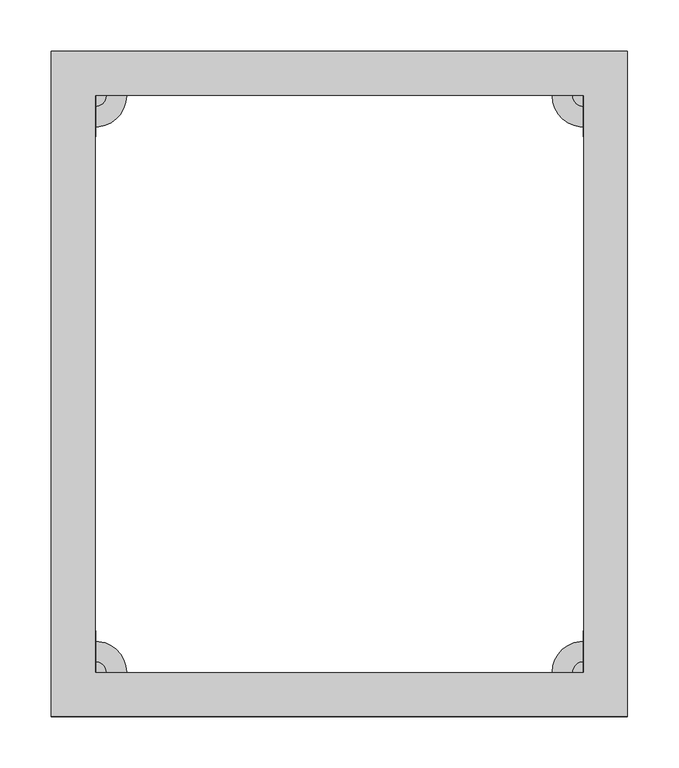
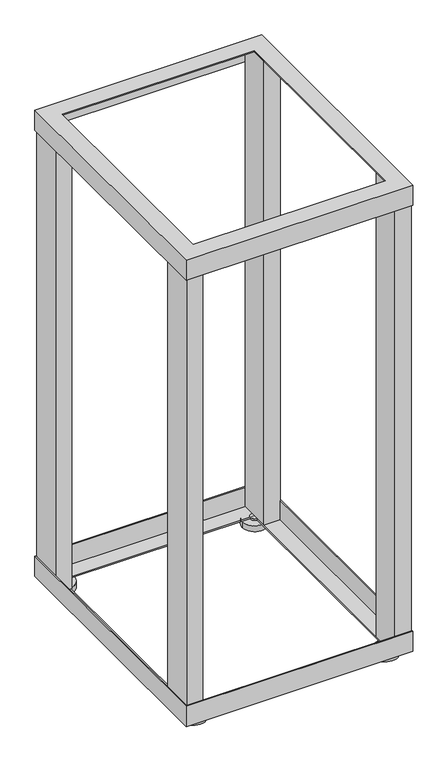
"""IFC4 building model written with IfcOpenShell, lengths in millimetres: proxy geometry, Шкафы ITK серия F : LF05-24U68-2R."""

import ifcopenshell
import ifcopenshell.guid

model = None  # the IFC model being written
_history = None  # IfcOwnerHistory: only IFC2X3 demands one
_inside = {}  # id of a spatial element -> (the spatial element, [elements in it])
_under = {}  # id of a project, library or spatial element -> (it, [spatial elements below it])
_declared = {}  # id of a project -> (the project, [libraries it declares])
_typed = {}  # id of a type object -> (the type object, [elements of that type])
_made_of = {}  # id of a material, layer set ... -> (it, [elements and type objects made of it])


def new_model(schema):
    """Start an empty IFC model of exactly this schema.

    Asked for "IFC4X3", IfcOpenShell would pick the latest addendum, in which some entities
    have other attributes; the version numbers below select the first issue.
    IFC2X3 requires an IfcOwnerHistory on every rooted entity: one is made here for all.
    """
    global model, _history
    if schema == "IFC4X3":
        model = ifcopenshell.file(schema_version=(4, 3, 0, 0))
    else:
        model = ifcopenshell.file(schema=schema)
    _inside.clear()
    _under.clear()
    _declared.clear()
    _typed.clear()
    _made_of.clear()
    _history = None
    if model.schema == "IFC2X3":
        org = make("IfcOrganization", Name="unknown")
        user = make(
            "IfcPersonAndOrganization",
            ThePerson=make("IfcPerson", FamilyName="unknown"),
            TheOrganization=org,
        )
        app = make(
            "IfcApplication",
            ApplicationDeveloper=org,
            Version="unknown",
            ApplicationFullName="unknown",
            ApplicationIdentifier="unknown",
        )
        _history = make(
            "IfcOwnerHistory",
            OwningUser=user,
            OwningApplication=app,
            ChangeAction="ADDED",
            CreationDate=0,
        )
    return model


def make(cls, **values):
    """One entity of the class cls with the attributes given. An attribute that is None is left unset."""
    return model.create_entity(
        cls, **{name: value for name, value in values.items() if value is not None}
    )


def rooted(cls, **values):
    """An entity with a GlobalId (a new one), such as an element, a storey or a relation."""
    return make(cls, GlobalId=ifcopenshell.guid.new(), OwnerHistory=_history, **values)


def si_unit(unit_type, name, prefix=None):
    """IfcSIUnit, for example si_unit("LENGTHUNIT", "METRE", prefix="MILLI")."""
    return make("IfcSIUnit", UnitType=unit_type, Prefix=prefix, Name=name)


def assignment(units):
    """IfcUnitAssignment: the units of a project."""
    return None if units is None else make("IfcUnitAssignment", Units=units)


def point(xyz):
    """IfcCartesianPoint."""
    return None if xyz is None else make("IfcCartesianPoint", Coordinates=xyz)


def direction(xyz):
    """IfcDirection."""
    return None if xyz is None else make("IfcDirection", DirectionRatios=xyz)


def frame(location, z_axis=None, x_axis=None):
    """IfcAxis2Placement3D, a coordinate frame: its origin and axes. An axis left out is left unset."""
    return make(
        "IfcAxis2Placement3D",
        Location=point(location),
        Axis=direction(z_axis),
        RefDirection=direction(x_axis),
    )


def frame_2d(location, x_axis=None):
    """IfcAxis2Placement2D, a coordinate frame in the plane: its origin and x axis."""
    return make(
        "IfcAxis2Placement2D", Location=point(location), RefDirection=direction(x_axis)
    )


def origin():
    """The frame at (0, 0, 0) with its axes left unset."""
    return frame((0.0, 0.0, 0.0))


def origin_with_axes():
    """The frame at (0, 0, 0) with the z axis (0, 0, 1) and the x axis (1, 0, 0) written out."""
    return frame((0.0, 0.0, 0.0), z_axis=(0.0, 0.0, 1.0), x_axis=(1.0, 0.0, 0.0))


def place(relative_to, where):
    """IfcLocalPlacement: puts the frame where relative to a parent placement (None: the world)."""
    return make(
        "IfcLocalPlacement", PlacementRelTo=relative_to, RelativePlacement=where
    )


def context(
    kind, dimensions, precision=None, world=None, true_north=None, identifier=None
):
    """IfcGeometricRepresentationContext, for example the 3D "Model" context."""
    return make(
        "IfcGeometricRepresentationContext",
        ContextIdentifier=identifier,
        ContextType=kind,
        CoordinateSpaceDimension=dimensions,
        Precision=precision,
        WorldCoordinateSystem=world,
        TrueNorth=true_north,
    )


def project(units=None, contexts=None):
    """IfcProject with its units and contexts."""
    return rooted(
        "IfcProject",
        Name="project",
        RepresentationContexts=contexts,
        UnitsInContext=assignment(units),
    )


def spatial(cls, under=None, at=None, **own):
    """A site, building, storey or space (cls), placed at a placement, below another one or the project."""
    s = rooted(cls, ObjectPlacement=at, **own)
    if under is not None:
        _under.setdefault(under.id(), (under, []))[1].append(s)
    return s


def polyline(points):
    """IfcPolyline through the points."""
    return make("IfcPolyline", Points=[point(p) for p in points])


def circle_curve(where, radius):
    """IfcCircle in the frame where."""
    return make("IfcCircle", Position=where, Radius=radius)


def trimmed(basis, trim1, trim2, sense, master):
    """IfcTrimmedCurve: the piece of a basis curve between two trims."""
    return make(
        "IfcTrimmedCurve",
        BasisCurve=basis,
        Trim1=trim1,
        Trim2=trim2,
        SenseAgreement=sense,
        MasterRepresentation=master,
    )


def segment(curve, same_sense, transition):
    """IfcCompositeCurveSegment."""
    return make(
        "IfcCompositeCurveSegment",
        Transition=transition,
        SameSense=same_sense,
        ParentCurve=curve,
    )


def composite_curve(segments, self_intersect=None):
    """IfcCompositeCurve: segments joined end to end."""
    return make("IfcCompositeCurve", Segments=segments, SelfIntersect=self_intersect)


def outline(outer, holes=None, kind="AREA"):
    """IfcArbitraryClosedProfileDef: a profile drawn as a closed curve; with holes, ...WithVoids."""
    if holes is None:
        return make("IfcArbitraryClosedProfileDef", ProfileType=kind, OuterCurve=outer)
    return make(
        "IfcArbitraryProfileDefWithVoids",
        ProfileType=kind,
        OuterCurve=outer,
        InnerCurves=holes,
    )


def extrude(swept, where, along, depth):
    """IfcExtrudedAreaSolid: the profile swept, set in the frame where, extruded along a direction by depth."""
    return make(
        "IfcExtrudedAreaSolid",
        SweptArea=swept,
        Position=where,
        ExtrudedDirection=direction(along),
        Depth=depth,
    )


def faces_of(points, faces, orient=None, outer=None):
    """IfcFace entities. A face is a list of loops; a loop is a list of indices into points, from 0.

    orient and outer hold one flag for each loop. By default every Orientation is true, the
    first loop of a face is its IfcFaceOuterBound and the others are IfcFaceBound.
    """
    made = []
    for i, loops in enumerate(faces):
        bounds = []
        for j, loop in enumerate(loops):
            is_outer = j == 0 if outer is None else outer[i][j]
            bounds.append(
                make(
                    "IfcFaceOuterBound" if is_outer else "IfcFaceBound",
                    Bound=make("IfcPolyLoop", Polygon=[points[k] for k in loop]),
                    Orientation=True if orient is None else orient[i][j],
                )
            )
        made.append(make("IfcFace", Bounds=bounds))
    return made


def faceted_brep(points, faces, orient=None, outer=None, voids=None):
    """IfcFacetedBrep: a solid bounded by flat faces; with voids (closed shells), ...WithVoids."""
    shared = [point(p) for p in points]
    hull = make("IfcClosedShell", CfsFaces=faces_of(shared, faces, orient, outer))
    if voids is None:
        return make("IfcFacetedBrep", Outer=hull)
    return make(
        "IfcFacetedBrepWithVoids",
        Outer=hull,
        Voids=[
            make(cls, CfsFaces=faces_of(shared, fs, o, b)) for cls, fs, o, b in voids
        ],
    )


def shape(context_of_items, identifier, shape_type, items):
    """IfcShapeRepresentation: the items that make up one representation, for example the "Body"."""
    return make(
        "IfcShapeRepresentation",
        ContextOfItems=context_of_items,
        RepresentationIdentifier=identifier,
        RepresentationType=shape_type,
        Items=items,
    )


def source(mapping_origin, context_of_items, identifier, shape_type, items):
    """IfcRepresentationMap: a shape defined once, which mapped items show again and again."""
    return make(
        "IfcRepresentationMap",
        MappingOrigin=mapping_origin,
        MappedRepresentation=shape(context_of_items, identifier, shape_type, items),
    )


def transform(
    local_origin,
    x_axis=None,
    y_axis=None,
    z_axis=None,
    scale=None,
    scale2=None,
    scale3=None,
    uniform=True,
):
    """IfcCartesianTransformationOperator3D, or its non-uniform kind. x_axis, y_axis, z_axis: its Axis1, 2, 3."""
    if uniform:
        return make(
            "IfcCartesianTransformationOperator3D",
            Axis1=direction(x_axis),
            Axis2=direction(y_axis),
            LocalOrigin=point(local_origin),
            Scale=scale,
            Axis3=direction(z_axis),
        )
    return make(
        "IfcCartesianTransformationOperator3DnonUniform",
        Axis1=direction(x_axis),
        Axis2=direction(y_axis),
        LocalOrigin=point(local_origin),
        Scale=scale,
        Axis3=direction(z_axis),
        Scale2=scale2,
        Scale3=scale3,
    )


def mapped(mapping_source, mapping_target):
    """IfcMappedItem: shows the shape of a source again, moved by a transform."""
    return make(
        "IfcMappedItem", MappingSource=mapping_source, MappingTarget=mapping_target
    )


def made_of(thing, what):
    """Note that an element or type object is made of a material, layer set ...; save() writes the relation."""
    if what is not None:
        _made_of.setdefault(what.id(), (what, []))[1].append(thing)
    return thing


def element(
    cls,
    number,
    at=None,
    inside=None,
    cuts=None,
    type_object=None,
    material=None,
    context=None,
    identifier="Body",
    shape_type=None,
    held_by="IfcProductDefinitionShape",
    body=None,
    shapes=None,
    **own,
):
    """One element of the class cls, such as IfcWall. Its Tag is "e" and its number.

    at: its placement. inside: the storey or other place that contains it. cuts: it is an
    opening in that element (IfcRelVoidsElement). A single representation is given by context,
    identifier, shape_type and body (its items); several are given by shapes. held_by: the class
    of the entity that holds the representations. save() writes the other relations.
    """
    e = rooted(cls, Tag="e%d" % number, ObjectPlacement=at, **own)
    if body is not None:
        shapes = [shape(context, identifier, shape_type, body)]
    if shapes is not None:
        e.Representation = make(held_by, Representations=shapes)
    if inside is not None:
        _inside.setdefault(inside.id(), (inside, []))[1].append(e)
    if cuts is not None:
        rooted(
            "IfcRelVoidsElement", RelatingBuildingElement=cuts, RelatedOpeningElement=e
        )
    if type_object is not None:
        _typed.setdefault(type_object.id(), (type_object, []))[1].append(e)
    return made_of(e, material)


def aggregate(whole, parts):
    """IfcRelAggregates: a whole, such as a stair, and the parts it consists of."""
    return rooted("IfcRelAggregates", RelatingObject=whole, RelatedObjects=parts)


def save(model, path):
    """Write the relations noted so far, then the file.

    IfcRelAggregates (storeys below a building ...), IfcRelContainedInSpatialStructure (elements
    in a storey), IfcRelDefinesByType, IfcRelAssociatesMaterial and IfcRelDeclares: one each for
    every whole, place, type object, material and project.
    """
    for whole, parts in _under.values():
        aggregate(whole, parts)
    for where, things in _inside.values():
        rooted(
            "IfcRelContainedInSpatialStructure",
            RelatedElements=things,
            RelatingStructure=where,
        )
    for kind, things in _typed.values():
        rooted("IfcRelDefinesByType", RelatedObjects=things, RelatingType=kind)
    for what, things in _made_of.values():
        rooted("IfcRelAssociatesMaterial", RelatedObjects=things, RelatingMaterial=what)
    for by, libraries in _declared.values():
        rooted("IfcRelDeclares", RelatingContext=by, RelatedDefinitions=libraries)
    model.write(path)


def electrical_fixtures_196bb8f5(model_context):
    return source(origin(), model_context, "Body", "SolidModel", [
        extrude(outline(composite_curve([segment(trimmed(circle_curve(frame_2d((-237.0, 280.0)), 10.0), [point((-227.0, 280.0))], [point((-247.0, 280.0))], False, "CARTESIAN"), True, "CONTINUOUS"), segment(trimmed(circle_curve(frame_2d((-237.0, 280.0)), 10.0), [point((-247.0, 280.0))], [point((-227.0, 280.0))], False, "CARTESIAN"), True, "CONTINUOUS")], self_intersect=False)), frame((0.0, 0.0, 15.0), z_axis=(0.0, 0.0, 1.0), x_axis=(1.0, 0.0, 0.0)), (0.0, 0.0, 1.0), 5.0),
        extrude(outline(composite_curve([segment(trimmed(circle_curve(frame_2d((237.0, 280.0)), 10.0), [point((247.0, 280.0))], [point((227.0, 280.0))], False, "CARTESIAN"), True, "CONTINUOUS"), segment(trimmed(circle_curve(frame_2d((237.0, 280.0)), 10.0), [point((227.0, 280.0))], [point((247.0, 280.0))], False, "CARTESIAN"), True, "CONTINUOUS")], self_intersect=False)), frame((0.0, 0.0, 15.0), z_axis=(0.0, 0.0, 1.0), x_axis=(1.0, 0.0, 0.0)), (0.0, 0.0, 1.0), 5.0),
        extrude(outline(composite_curve([segment(trimmed(circle_curve(frame_2d((-237.0, -280.0)), 10.0), [point((-227.0, -280.0))], [point((-247.0, -280.0))], False, "CARTESIAN"), True, "CONTINUOUS"), segment(trimmed(circle_curve(frame_2d((-237.0, -280.0)), 10.0), [point((-247.0, -280.0))], [point((-227.0, -280.0))], False, "CARTESIAN"), True, "CONTINUOUS")], self_intersect=False)), frame((0.0, 0.0, 15.0), z_axis=(0.0, 0.0, 1.0), x_axis=(1.0, 0.0, 0.0)), (0.0, 0.0, 1.0), 5.0),
        extrude(outline(composite_curve([segment(trimmed(circle_curve(frame_2d((237.0, -280.0)), 10.0), [point((247.0, -280.0))], [point((227.0, -280.0))], False, "CARTESIAN"), True, "CONTINUOUS"), segment(trimmed(circle_curve(frame_2d((237.0, -280.0)), 10.0), [point((227.0, -280.0))], [point((247.0, -280.0))], False, "CARTESIAN"), True, "CONTINUOUS")], self_intersect=False)), frame((0.0, 0.0, 15.0), z_axis=(0.0, 0.0, 1.0), x_axis=(1.0, 0.0, 0.0)), (0.0, 0.0, 1.0), 5.0),
        extrude(outline(composite_curve([segment(trimmed(circle_curve(frame_2d((-237.0, 280.0)), 30.0), [point((-207.0, 280.0))], [point((-267.0, 280.0))], False, "CARTESIAN"), True, "CONTINUOUS"), segment(trimmed(circle_curve(frame_2d((-237.0, 280.0)), 30.0), [point((-267.0, 280.0))], [point((-207.0, 280.0))], False, "CARTESIAN"), True, "CONTINUOUS")], self_intersect=False)), origin_with_axes(), (0.0, 0.0, 1.0), 15.0),
        extrude(outline(composite_curve([segment(trimmed(circle_curve(frame_2d((237.0, 280.0)), 30.0), [point((267.0, 280.0))], [point((207.0, 280.0))], False, "CARTESIAN"), True, "CONTINUOUS"), segment(trimmed(circle_curve(frame_2d((237.0, 280.0)), 30.0), [point((207.0, 280.0))], [point((267.0, 280.0))], False, "CARTESIAN"), True, "CONTINUOUS")], self_intersect=False)), origin_with_axes(), (0.0, 0.0, 1.0), 15.0),
        extrude(outline(composite_curve([segment(trimmed(circle_curve(frame_2d((-237.0, -280.0)), 30.0), [point((-207.0, -280.0))], [point((-267.0, -280.0))], False, "CARTESIAN"), True, "CONTINUOUS"), segment(trimmed(circle_curve(frame_2d((-237.0, -280.0)), 30.0), [point((-267.0, -280.0))], [point((-207.0, -280.0))], False, "CARTESIAN"), True, "CONTINUOUS")], self_intersect=False)), origin_with_axes(), (0.0, 0.0, 1.0), 15.0),
        extrude(outline(composite_curve([segment(trimmed(circle_curve(frame_2d((237.0, -280.0)), 30.0), [point((267.0, -280.0))], [point((207.0, -280.0))], False, "CARTESIAN"), True, "CONTINUOUS"), segment(trimmed(circle_curve(frame_2d((237.0, -280.0)), 30.0), [point((207.0, -280.0))], [point((267.0, -280.0))], False, "CARTESIAN"), True, "CONTINUOUS")], self_intersect=False)), origin_with_axes(), (0.0, 0.0, 1.0), 15.0),
        faceted_brep([(237.0, 280.0, 1234.0), (237.0, 280.0, 1231.0), (237.0, -280.0, 1231.0), (237.0, -280.0, 1234.0), (280.0, 323.0, 1181.0), (280.0, 323.0, 1234.0), (280.0, -323.0, 1234.0), (280.0, -323.0, 1181.0), (277.0, 320.0, 1231.0), (277.0, 320.0, 1181.0), (277.0, -320.0, 1181.0), (277.0, -320.0, 1231.0), (-237.0, -280.0, 1231.0), (-237.0, -280.0, 1234.0), (-280.0, -323.0, 1234.0), (-280.0, -323.0, 1181.0), (-277.0, -320.0, 1181.0), (-277.0, -320.0, 1231.0), (-237.0, 280.0, 1231.0), (-237.0, 280.0, 1234.0), (-280.0, 323.0, 1234.0), (-280.0, 323.0, 1181.0), (-277.0, 320.0, 1181.0), (-277.0, 320.0, 1231.0)], [[[0, 1, 2, 3]], [[4, 5, 6, 7]], [[8, 9, 10, 11]], [[3, 2, 12, 13]], [[7, 6, 14, 15]], [[11, 10, 16, 17]], [[13, 12, 18, 19]], [[15, 14, 20, 21]], [[17, 16, 22, 23]], [[19, 18, 1, 0]], [[5, 20, 14, 6], [3, 13, 19, 0]], [[21, 20, 5, 4]], [[7, 15, 21, 4], [9, 22, 16, 10]], [[23, 22, 9, 8]], [[11, 17, 23, 8], [1, 18, 12, 2]]]),
        faceted_brep([(280.0, 323.0, 17.0), (280.0, 323.0, 70.0), (280.0, -323.0, 70.0), (280.0, -323.0, 17.0), (237.0, 280.0, 20.0), (237.0, 280.0, 17.0), (237.0, -280.0, 17.0), (237.0, -280.0, 20.0), (277.0, 320.0, 70.0), (277.0, 320.0, 20.0), (277.0, -320.0, 20.0), (277.0, -320.0, 70.0), (-280.0, -323.0, 70.0), (-280.0, -323.0, 17.0), (-237.0, -280.0, 17.0), (-237.0, -280.0, 20.0), (-277.0, -320.0, 20.0), (-277.0, -320.0, 70.0), (-280.0, 323.0, 70.0), (-280.0, 323.0, 17.0), (-237.0, 280.0, 17.0), (-237.0, 280.0, 20.0), (-277.0, 320.0, 20.0), (-277.0, 320.0, 70.0)], [[[0, 1, 2, 3]], [[4, 5, 6, 7]], [[8, 9, 10, 11]], [[3, 2, 12, 13]], [[7, 6, 14, 15]], [[11, 10, 16, 17]], [[13, 12, 18, 19]], [[15, 14, 20, 21]], [[17, 16, 22, 23]], [[1, 18, 12, 2], [11, 17, 23, 8]], [[19, 18, 1, 0]], [[3, 13, 19, 0], [5, 20, 14, 6]], [[21, 20, 5, 4]], [[9, 22, 16, 10], [7, 15, 21, 4]], [[23, 22, 9, 8]]]),
        extrude(outline(polyline([(-237.0, -240.0), (-237.0, -320.0), (-277.0, -320.0), (-277.0, -240.0), (-237.0, -240.0)]), holes=[polyline([(-240.0, -243.0), (-274.0, -243.0), (-274.0, -317.0), (-240.0, -317.0), (-240.0, -243.0)])]), frame((0.0, 0.0, 20.0), z_axis=(0.0, 0.0, 1.0), x_axis=(1.0, 0.0, 0.0)), (0.0, 0.0, 1.0), 1211.0),
        extrude(outline(polyline([(237.0, 240.0), (237.0, 320.0), (277.0, 320.0), (277.0, 240.0), (237.0, 240.0)]), holes=[polyline([(274.0, 243.0), (274.0, 317.0), (240.0, 317.0), (240.0, 243.0), (274.0, 243.0)])]), frame((0.0, 0.0, 20.0), z_axis=(0.0, 0.0, 1.0), x_axis=(1.0, 0.0, 0.0)), (0.0, 0.0, 1.0), 1211.0),
        extrude(outline(polyline([(-237.0, 240.0), (-277.0, 240.0), (-277.0, 320.0), (-237.0, 320.0), (-237.0, 240.0)]), holes=[polyline([(-274.0, 317.0), (-274.0, 243.0), (-240.0, 243.0), (-240.0, 317.0), (-274.0, 317.0)])]), frame((0.0, 0.0, 20.0), z_axis=(0.0, 0.0, 1.0), x_axis=(1.0, 0.0, 0.0)), (0.0, 0.0, 1.0), 1211.0),
        extrude(outline(polyline([(237.0, -240.0), (277.0, -240.0), (277.0, -320.0), (237.0, -320.0), (237.0, -240.0)]), holes=[polyline([(274.0, -317.0), (274.0, -243.0), (240.0, -243.0), (240.0, -317.0), (274.0, -317.0)])]), frame((0.0, 0.0, 20.0), z_axis=(0.0, 0.0, 1.0), x_axis=(1.0, 0.0, 0.0)), (0.0, 0.0, 1.0), 1211.0),
    ])


if __name__ == "__main__":
    model = new_model("IFC4")
    model_context = context("Model", 3, world=origin())
    ifc_project = project(units=[si_unit("LENGTHUNIT", "METRE", prefix="MILLI")], contexts=[model_context])
    site = spatial("IfcSite", under=ifc_project)
    building = spatial("IfcBuilding", under=site)
    placement = place(None, origin())
    electrical_fixtures_shape = electrical_fixtures_196bb8f5(model_context)
    element("IfcBuildingElementProxy", 1, Name="Шкафы ITK серия F : LF05-24U68-2R", ObjectType="Шкафы ITK серия F : LF05-24U68-2R", at=placement, inside=building, context=model_context, shape_type="MappedRepresentation", body=[
        mapped(electrical_fixtures_shape, transform((0.0, 0.0, 0.0), x_axis=(1.0, 0.0, 0.0), y_axis=(0.0, 1.0, 0.0), z_axis=(0.0, 0.0, 1.0))),
    ])
    save(model, "model.ifc")
